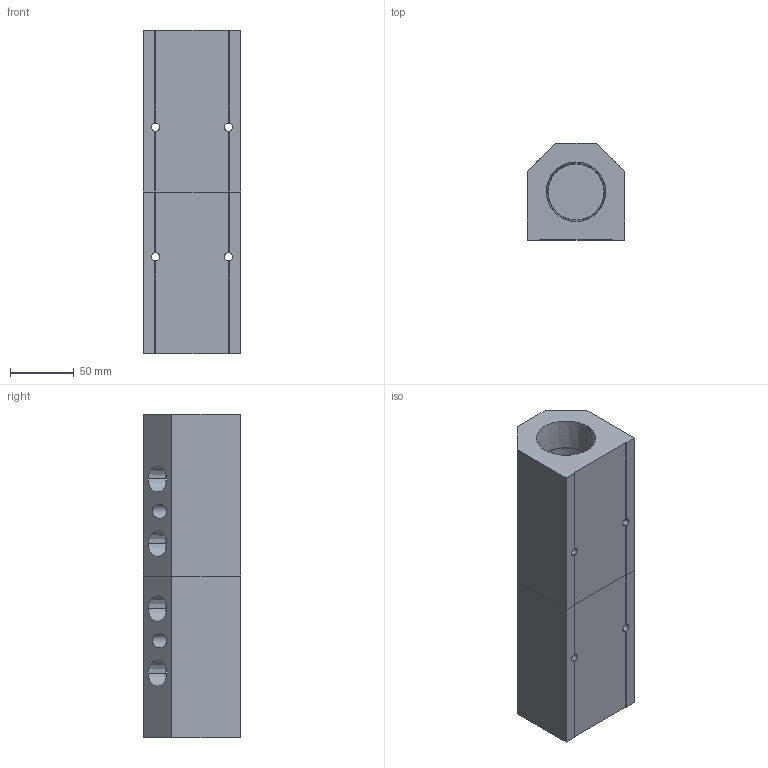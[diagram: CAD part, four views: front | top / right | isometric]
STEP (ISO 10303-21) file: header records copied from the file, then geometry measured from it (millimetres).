
FILE_DESCRIPTION (( 'STEP AP214' ), '1' );
FILE_NAME ('ALM4BD-N8N24-254RB.step', '2022-02-07T09:39:35', ( '' ), ( '' ), 'SwSTEP 2.0', 'SolidWorks 2020', '' );
FILE_SCHEMA (( 'AUTOMOTIVE_DESIGN' ));
Length unit declared in the file: millimetre
Products named in the file (1): ALM4BD-N8N24-254RB
Bounding box: 76.2 x 76.2 x 254 mm (x, y, z)
Volume: 900292.2 mm3; surface area: 136004.1 mm2
Topology: 2 solids, 2 shells, 364 faces, 952 edges, 632 vertices
Faces by surface type: plane 254, bspline 70, cone 20, cylinder 20
Entity records: 19613 total; most frequent: CARTESIAN_POINT 7687, ORIENTED_EDGE 1904, DIRECTION 1426, EDGE_CURVE 952, LINE 724, VECTOR 724, VERTEX_POINT 632, EDGE_LOOP 428
